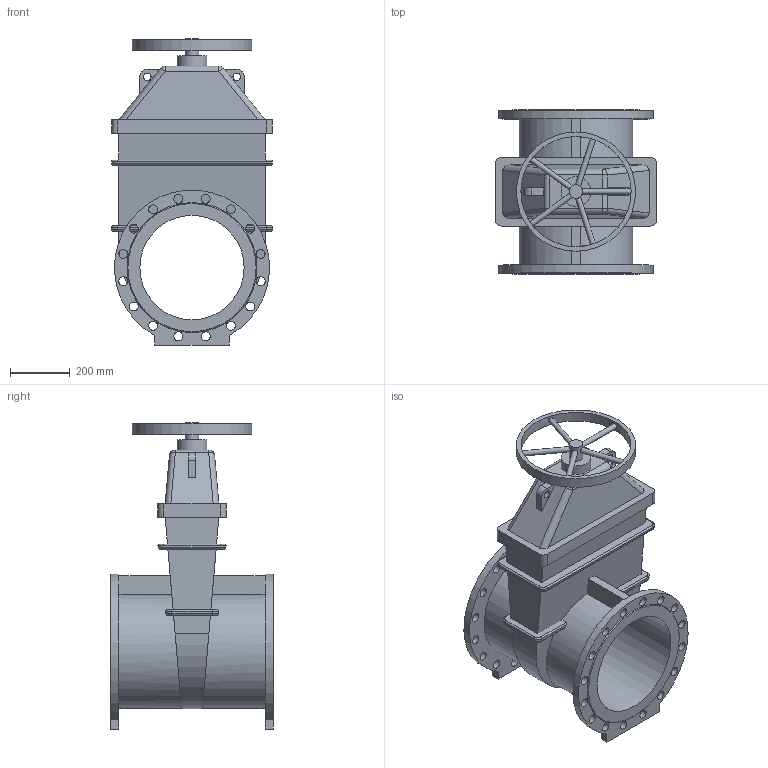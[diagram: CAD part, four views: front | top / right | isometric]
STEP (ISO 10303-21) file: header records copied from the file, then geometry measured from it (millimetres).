
FILE_DESCRIPTION(('STEP AP203'), '1');
FILE_NAME('Çàäâèæêà 47GV DN350 PN10_PN16_L550 ñ ìàõîâèêîì', '', ('UNSPECIFIED'), ('UNSPECIFIED'), 'ASCON STEP Converter 1.6', 'ASCON Math Kernel', '');
FILE_SCHEMA(('CONFIG_CONTROL_DESIGN'));
Length unit declared in the file: millimetre
Bounding box: 540 x 550 x 1027 mm (x, y, z)
Volume: 59351627.1 mm3; surface area: 2895435.9 mm2
Topology: 1 solids, 1 shells, 210 faces, 536 edges, 332 vertices
Faces by surface type: cylinder 99, plane 89, bspline 14, torus 6, cone 2
Full cylindrical faces by diameter (mm): 18 x5, 25 x2, 30 x32, 45 x1, 100 x1, 350 x1, 370 x1, 400 x1
Entity records: 10477 total; most frequent: CARTESIAN_POINT 3806, DIRECTION 985, ORIENTED_EDGE 970, EDGE_CURVE 485, AXIS2_PLACEMENT_3D 373, EDGE_LOOP 353, VERTEX_POINT 332, FACE_BOUND 262
